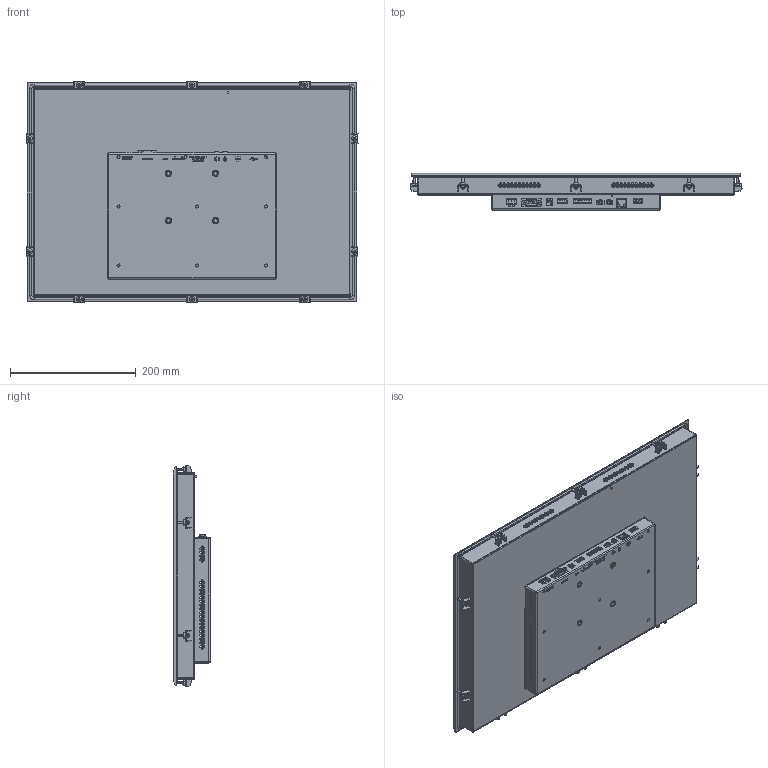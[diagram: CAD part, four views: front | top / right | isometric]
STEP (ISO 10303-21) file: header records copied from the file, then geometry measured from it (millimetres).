
FILE_DESCRIPTION (( 'STEP AP214' ), '1' );
FILE_NAME ('ﾏﾋﾊ21,5 ﾌ瑕褪.STEP', '2025-05-24T22:29:59', ( '' ), ( '' ), 'SwSTEP 2.0', 'SolidWorks 2021', '' );
FILE_SCHEMA (( 'AUTOMOTIVE_DESIGN' ));
Length unit declared in the file: millimetre
Products named in the file (1): ﾏﾋﾊ21,5 ﾌ瑕褪
Bounding box: 528.45 x 59.7 x 352.45 mm (x, y, z)
Surface area: 842257 mm2 (no closed solid volume)
Topology: 0 solids, 204 shells, 1505 faces, 10771 edges, 9361 vertices
Faces by surface type: plane 742, cylinder 651, torus 41, cone 40, bspline 31
Entity records: 123651 total; most frequent: CARTESIAN_POINT 32565, DIRECTION 13801, ORIENTED_EDGE 13244, EDGE_CURVE 10771, VERTEX_POINT 9361, LINE 5321, VECTOR 5321, AXIS2_PLACEMENT_3D 4240
